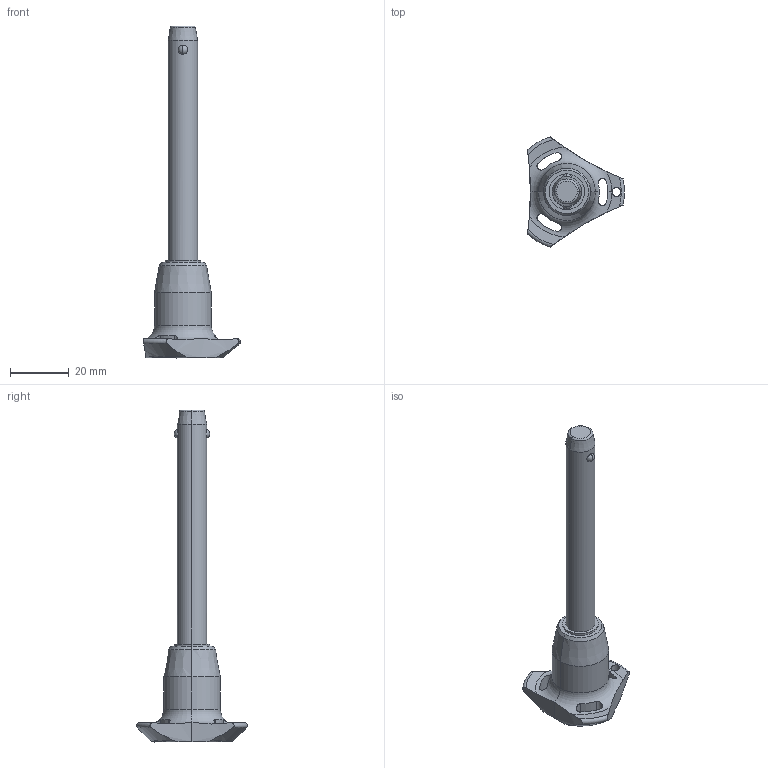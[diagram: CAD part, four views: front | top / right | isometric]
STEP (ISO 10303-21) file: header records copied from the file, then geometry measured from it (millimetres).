
FILE_DESCRIPTION (( 'STEP AP203' ), '1' );
FILE_NAME ('QR1724.M10-070-S.step', '2025-11-12T12:54:28', ( '' ), ( '' ), 'SwSTEP 2.0', 'SolidWorks 2019', '' );
FILE_SCHEMA (( 'CONFIG_CONTROL_DESIGN' ));
Length unit declared in the file: millimetre
Products named in the file (1): QR1724.M10-070-S
Bounding box: 33 x 37.51 x 112.9 mm (x, y, z)
Volume: 16577.7 mm3; surface area: 6363.5 mm2
Topology: 1 solids, 1 shells, 65 faces, 174 edges, 109 vertices
Faces by surface type: cylinder 30, cone 14, torus 11, sphere 6, plane 4
Entity records: 2760 total; most frequent: CARTESIAN_POINT 1087, ORIENTED_EDGE 348, DIRECTION 331, EDGE_CURVE 174, AXIS2_PLACEMENT_3D 147, VERTEX_POINT 109, CIRCLE 81, EDGE_LOOP 71
